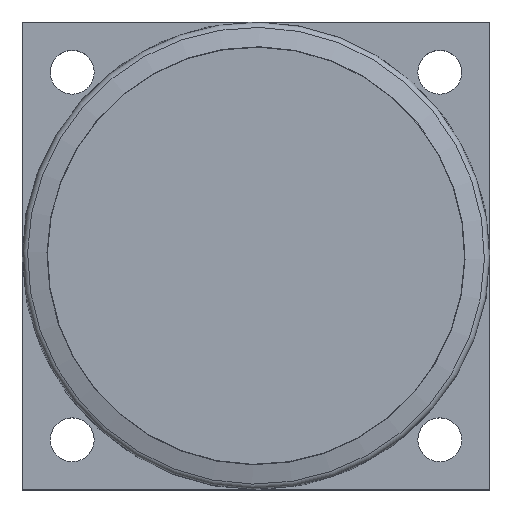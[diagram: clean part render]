
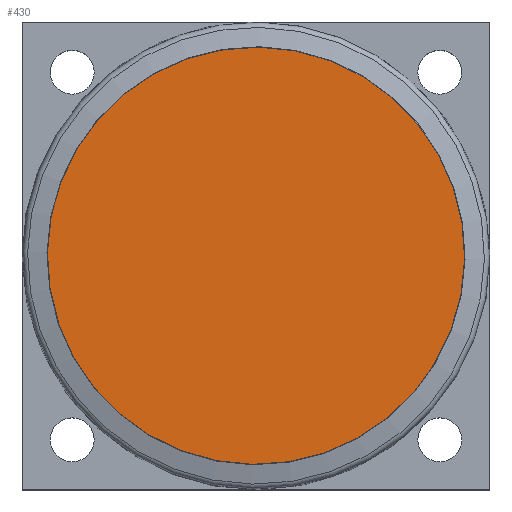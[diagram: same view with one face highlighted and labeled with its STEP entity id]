
A CAD part, top view. The second image highlights one B-rep face of the part: STEP entity #430.
In plain terms, the highlighted planar face has unit normal (0, 0, 1).
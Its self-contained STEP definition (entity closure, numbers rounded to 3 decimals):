
#410=CARTESIAN_POINT('',(-60.372,-186.474,203.615));
#411=VERTEX_POINT('',#410);
#412=CARTESIAN_POINT('',(-177.021,-141.917,203.615));
#413=DIRECTION('',(0.,0.,-1.0));
#414=DIRECTION('',(-0.934,0.357,0.));
#415=AXIS2_PLACEMENT_3D('',#412,#413,#414);
#416=CIRCLE('',#415,124.868);
#417=EDGE_CURVE('',#411,#411,#416,.T.);
#422=CARTESIAN_POINT('',(-69.124,-183.131,203.615));
#423=DIRECTION('',(0.,0.,1.0));
#424=DIRECTION('',(-0.357,-0.934,0.));
#425=AXIS2_PLACEMENT_3D('',#422,#423,#424);
#426=PLANE('',#425);
#427=ORIENTED_EDGE('',*,*,#417,.F.);
#428=EDGE_LOOP('',(#427));
#429=FACE_OUTER_BOUND('',#428,.T.);
#430=ADVANCED_FACE('',(#429),#426,.T.);
